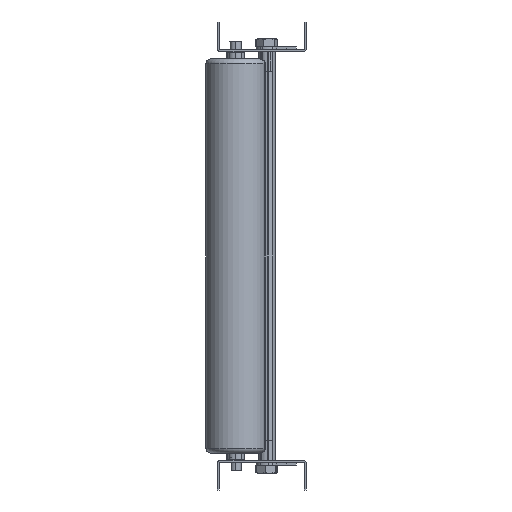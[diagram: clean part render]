
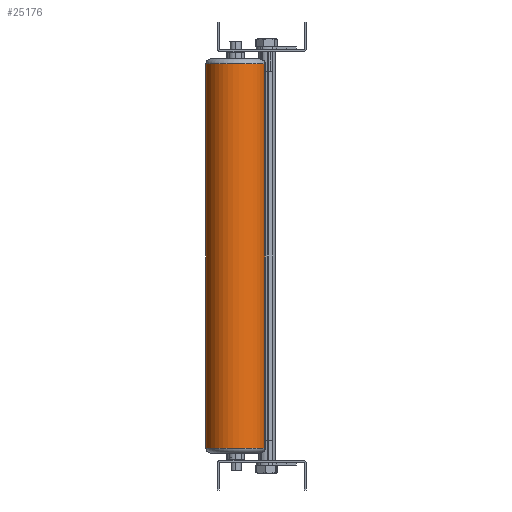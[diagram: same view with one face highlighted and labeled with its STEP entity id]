
A CAD part, left-side view. The second image highlights one B-rep face of the part: STEP entity #25176.
In plain terms, the highlighted cylindrical face has radius 30.25 mm (diameter 60.5 mm), a partial arc.
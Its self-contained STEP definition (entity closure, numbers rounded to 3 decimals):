
#731 = DIRECTION ( 'NONE',  ( 0., 0., -1. ) ) ;
#738 = LINE ( 'NONE', #10978, #15696 ) ;
#1929 = CARTESIAN_POINT ( 'NONE',  ( -3190.403, 573.759, 656.827 ) ) ;
#2465 = CARTESIAN_POINT ( 'NONE',  ( -3175.579, 632.415, 656.827 ) ) ;
#2532 = FACE_OUTER_BOUND ( 'NONE', #30951, .T. ) ;
#5300 = ORIENTED_EDGE ( 'NONE', *, *, #15315, .T. ) ;
#5461 = ORIENTED_EDGE ( 'NONE', *, *, #6313, .T. ) ;
#6313 = EDGE_CURVE ( 'NONE', #22488, #13390, #30738, .T. ) ;
#6743 = CARTESIAN_POINT ( 'NONE',  ( -3175.579, 632.415, 266.827 ) ) ;
#8529 = AXIS2_PLACEMENT_3D ( 'NONE', #28301, #23078, #9937 ) ;
#8793 = CARTESIAN_POINT ( 'NONE',  ( -3182.991, 603.087, 656.827 ) ) ;
#8911 = DIRECTION ( 'NONE',  ( 0., 0., -1. ) ) ;
#9937 = DIRECTION ( 'NONE',  ( -0.245, -0.97, 0. ) ) ;
#10661 = DIRECTION ( 'NONE',  ( 0.245, 0.97, 0. ) ) ;
#10978 = CARTESIAN_POINT ( 'NONE',  ( -3175.579, 632.415, 661.827 ) ) ;
#11205 = CARTESIAN_POINT ( 'NONE',  ( -3190.403, 573.759, 266.827 ) ) ;
#11493 = ORIENTED_EDGE ( 'NONE', *, *, #33117, .F. ) ;
#11862 = AXIS2_PLACEMENT_3D ( 'NONE', #31067, #23632, #10661 ) ;
#12357 = ORIENTED_EDGE ( 'NONE', *, *, #16629, .T. ) ;
#13019 = VECTOR ( 'NONE', #8911, 1000. ) ;
#13390 = VERTEX_POINT ( 'NONE', #11205 ) ;
#13770 = LINE ( 'NONE', #16793, #13019 ) ;
#15315 = EDGE_CURVE ( 'NONE', #29543, #27208, #24256, .T. ) ;
#15696 = VECTOR ( 'NONE', #21268, 1000. ) ;
#16629 = EDGE_CURVE ( 'NONE', #27208, #22488, #738, .T. ) ;
#16793 = CARTESIAN_POINT ( 'NONE',  ( -3190.403, 573.759, 661.827 ) ) ;
#21268 = DIRECTION ( 'NONE',  ( 0., 0., -1. ) ) ;
#22488 = VERTEX_POINT ( 'NONE', #6743 ) ;
#23078 = DIRECTION ( 'NONE',  ( 0., 0., -1. ) ) ;
#23632 = DIRECTION ( 'NONE',  ( 0., 0., 1. ) ) ;
#24256 = CIRCLE ( 'NONE', #25865, 30.25 ) ;
#25176 = ADVANCED_FACE ( 'NONE', ( #2532 ), #30679, .T. ) ;
#25865 = AXIS2_PLACEMENT_3D ( 'NONE', #8793, #731, #29013 ) ;
#27208 = VERTEX_POINT ( 'NONE', #2465 ) ;
#28301 = CARTESIAN_POINT ( 'NONE',  ( -3182.991, 603.087, 661.827 ) ) ;
#29013 = DIRECTION ( 'NONE',  ( 0.245, 0.97, 0. ) ) ;
#29543 = VERTEX_POINT ( 'NONE', #1929 ) ;
#30679 = CYLINDRICAL_SURFACE ( 'NONE', #8529, 30.25 ) ;
#30738 = CIRCLE ( 'NONE', #11862, 30.25 ) ;
#30951 = EDGE_LOOP ( 'NONE', ( #5300, #12357, #5461, #11493 ) ) ;
#31067 = CARTESIAN_POINT ( 'NONE',  ( -3182.991, 603.087, 266.827 ) ) ;
#33117 = EDGE_CURVE ( 'NONE', #29543, #13390, #13770, .T. ) ;
